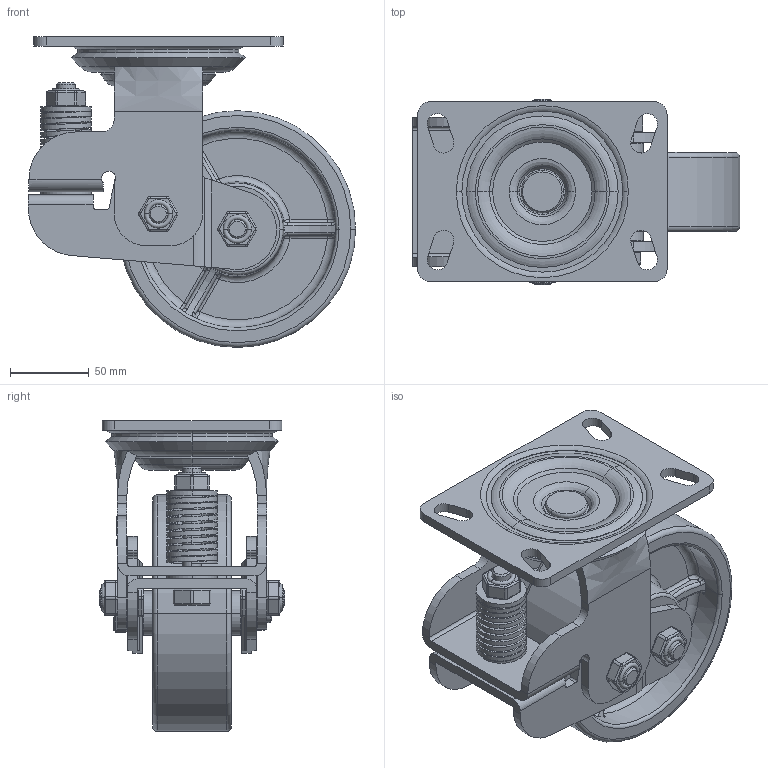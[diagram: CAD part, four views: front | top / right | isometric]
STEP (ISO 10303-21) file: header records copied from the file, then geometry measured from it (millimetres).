
FILE_DESCRIPTION(/* description */ (''),/* implementation_level */ '2;1');
FILE_NAME(/* name */ '45A03_6_F.stp',/* time_stamp */ '2022-08-29T11:13:40+08:00',/* author */ (''),/* organization */ (''),/* preprocessor_version */ 'ST-DEVELOPER v14',/* originating_system */ 'SIEMENS PLM Software NX 8.0',/* authorisation */ '');
FILE_SCHEMA (('AUTOMOTIVE_DESIGN { 1 0 10303 214 3 1 1 1 }'));
Length unit declared in the file: millimetre
Products named in the file (1): 45A03_6_F
Bounding box: 207.35 x 117.38 x 197 mm (x, y, z)
Volume: 974898.2 mm3; surface area: 236418.9 mm2
Topology: 1 solids, 4 shells, 905 faces, 2210 edges, 1356 vertices
Faces by surface type: plane 350, cylinder 274, bspline 133, torus 81, cone 67
Entity records: 34523 total; most frequent: CARTESIAN_POINT 14211, ORIENTED_EDGE 4420, DIRECTION 4001, EDGE_CURVE 2210, AXIS2_PLACEMENT_3D 1531, VERTEX_POINT 1356, EDGE_LOOP 972, LINE 939
